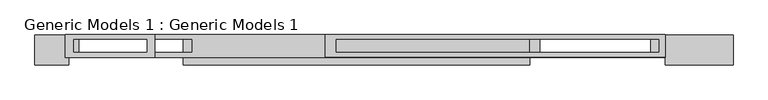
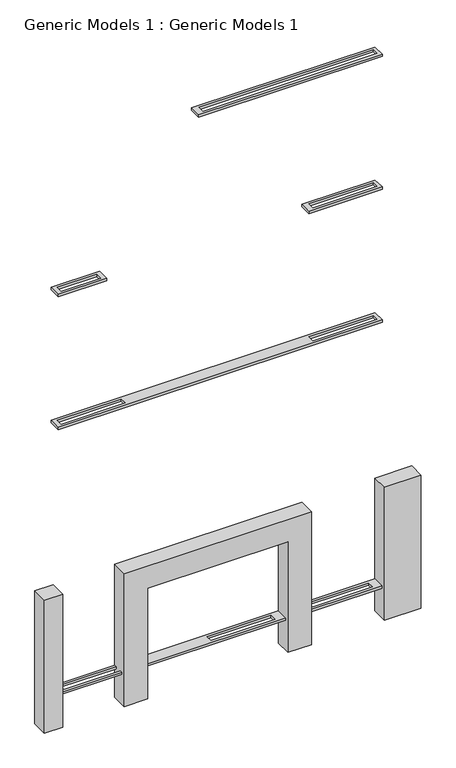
"""IFC4 building model written with IfcOpenShell, lengths in millimetres: proxy geometry, Generic Models 1 : Generic Models 1."""

from ifc_helpers import new_model, si_unit, frame, origin, place, context, project, spatial, polyline, outline, extrude, source, transform, mapped, element, save


def generic_models_1_generic_models_1_38655d54(model_context):
    return source(origin(), model_context, "Body", "SweptSolid", [
        extrude(outline(polyline([(-4200.0, -3849.4449025), (-4200.0, -4109.4449025), (-8118.5171482, -4109.4449025), (-8118.5171482, -3849.4449025), (-4200.0, -3849.4449025)]), holes=[polyline([(-7993.4735936, -3903.7731061), (-7993.4735936, -4047.6885624), (-4273.025, -4047.6885624), (-4273.025, -3903.7731061), (-7993.4735936, -3903.7731061)])]), frame((0.0, 0.0, 15672.8), z_axis=(0.0, 0.0, 1.0), x_axis=(1.0, 0.0, 0.0)), (0.0, 0.0, 1.0), 51.1),
        extrude(outline(polyline([(-4200.0, -3849.4449025), (-4200.0, -4109.4449025), (-5763.3274035, -4109.4449025), (-5763.3274035, -3849.4449025), (-4200.0, -3849.4449025)]), holes=[polyline([(-5640.6739398, -3903.7731061), (-5640.6739398, -4047.6885624), (-4273.025, -4047.6885624), (-4273.025, -3903.7731061), (-5640.6739398, -3903.7731061)])]), frame((0.0, 0.0, 12672.8), z_axis=(0.0, 0.0, 1.0), x_axis=(1.0, 0.0, 0.0)), (0.0, 0.0, 1.0), 51.1),
        extrude(outline(polyline([(-10085.4354417, -4109.4449025), (-11118.5171482, -4109.4449025), (-11118.5171482, -3849.4449025), (-10085.4354417, -3849.4449025), (-10085.4354417, -4109.4449025)]), holes=[polyline([(-11019.2792757, -3903.7731061), (-11019.2792757, -4047.6885624), (-10179.2792757, -4047.6885624), (-10179.2792757, -3903.7731061), (-11019.2792757, -3903.7731061)])]), frame((0.0, 0.0, 12672.8), z_axis=(0.0, 0.0, 1.0), x_axis=(1.0, 0.0, 0.0)), (0.0, 0.0, 1.0), 51.1),
        extrude(outline(polyline([(-4200.0, -4109.4449025), (-11118.5171482, -4109.4449025), (-11118.5171482, -3849.4449025), (-4200.0, -3849.4449025), (-4200.0, -4109.4449025)]), holes=[polyline([(-5640.6739398, -3903.7731061), (-5640.6739398, -4047.6885624), (-4273.025, -4047.6885624), (-4273.025, -3903.7731061), (-5640.6739398, -3903.7731061)]), polyline([(-11019.2792757, -3903.7731061), (-11019.2792757, -4047.6885624), (-9657.1094662, -4047.6885624), (-9657.1094662, -3903.7731061), (-11019.2792757, -3903.7731061)])]), frame((0.0, 0.0, 9672.8), z_axis=(0.0, 0.0, 1.0), x_axis=(1.0, 0.0, 0.0)), (0.0, 0.0, 1.0), 51.1),
        extrude(outline(polyline([(-4200.0, -4109.4449025), (-11077.8516447, -4109.4449025), (-11077.8516447, -3849.4449025), (-4200.0, -3849.4449025), (-4200.0, -4109.4449025)]), holes=[polyline([(-5640.6739398, -3903.7731061), (-5640.6739398, -4047.6885624), (-4370.9212197, -4047.6885624), (-4370.9212197, -3903.7731061), (-5640.6739398, -3903.7731061)]), polyline([(-7821.9502733, -3903.7731061), (-7821.9502733, -4047.6885624), (-6457.2984952, -4047.6885624), (-6457.2984952, -3903.7731061), (-7821.9502733, -3903.7731061)]), polyline([(-10957.9806588, -3903.7731061), (-10957.9806588, -4047.6885624), (-9380.7184272, -4047.6885624), (-9380.7184272, -3903.7731061), (-10957.9806588, -3903.7731061)])]), frame((0.0, 0.0, 3672.8), z_axis=(0.0, 0.0, 1.0), x_axis=(1.0, 0.0, 0.0)), (0.0, 0.0, 1.0), 51.1),
        extrude(outline(polyline([(6000.0, -5763.3274035), (6000.0, -9760.1539512), (3000.0, -9760.1539512), (3000.0, -9260.1539512), (5500.0, -9260.1539512), (5500.0, -6263.3274035), (3000.0, -6263.3274035), (3000.0, -5763.3274035), (6000.0, -5763.3274035)])), frame((0.0, -4196.3905645, 0.0), z_axis=(0.0, 1.0, 0.0), x_axis=(0.0, 0.0, 1.0)), (0.0, 0.0, 1.0), 346.945662),
        extrude(outline(polyline([(-11077.8516447, -4196.3905645), (-11467.8516447, -4196.3905645), (-11467.8516447, -3849.4449025), (-11077.8516447, -3849.4449025), (-11077.8516447, -4196.3905645)])), frame((0.0, 0.0, 3000.0), z_axis=(0.0, 0.0, 1.0), x_axis=(1.0, 0.0, 0.0)), (0.0, 0.0, 1.0), 3000.0),
        extrude(outline(polyline([(-3418.5171482, -4196.3905645), (-4200.0, -4196.3905645), (-4200.0, -3849.4449025), (-3418.5171482, -3849.4449025), (-3418.5171482, -4196.3905645)])), frame((0.0, 0.0, 3000.0), z_axis=(0.0, 0.0, 1.0), x_axis=(1.0, 0.0, 0.0)), (0.0, 0.0, 1.0), 3000.0),
    ])


if __name__ == "__main__":
    model = new_model("IFC4")
    model_context = context("Model", 3, world=origin())
    ifc_project = project(units=[si_unit("LENGTHUNIT", "METRE", prefix="MILLI")], contexts=[model_context])
    site = spatial("IfcSite", under=ifc_project)
    building = spatial("IfcBuilding", under=site)
    placement = place(None, origin())
    generic_models_1_generic_models_1_shape = generic_models_1_generic_models_1_38655d54(model_context)
    element("IfcBuildingElementProxy", 1, Name="Generic Models 1 : Generic Models 1", ObjectType="Generic Models 1 : Generic Models 1", at=placement, inside=building, context=model_context, shape_type="MappedRepresentation", body=[
        mapped(generic_models_1_generic_models_1_shape, transform((0.0, 0.0, 0.0), x_axis=(1.0, 0.0, 0.0), y_axis=(0.0, 1.0, 0.0), z_axis=(0.0, 0.0, 1.0))),
    ])
    save(model, "model.ifc")
